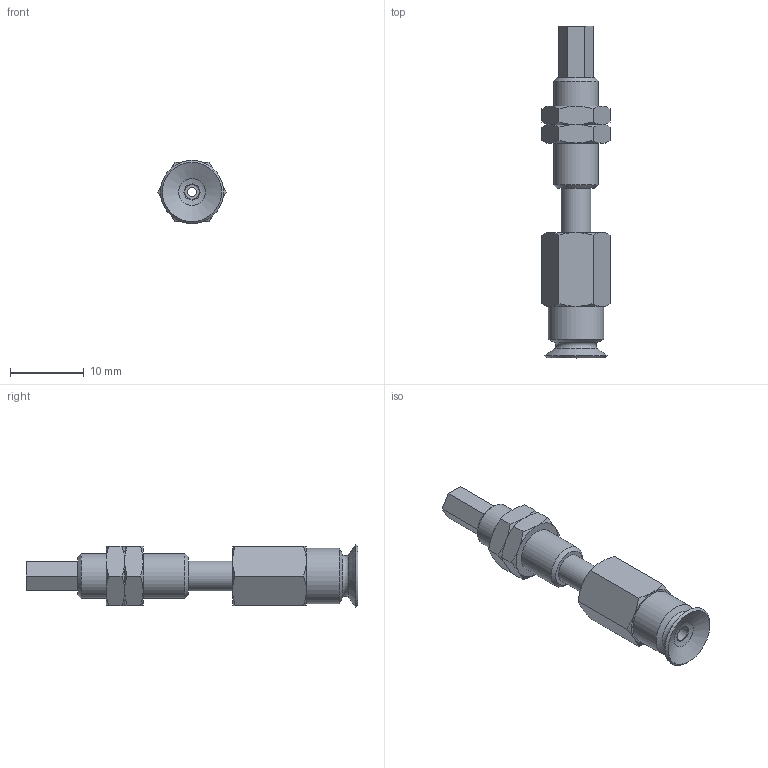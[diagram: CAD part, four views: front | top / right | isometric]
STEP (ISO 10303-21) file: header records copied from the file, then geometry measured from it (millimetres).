
FILE_DESCRIPTION(('STEP AP203'),'1');
FILE_NAME('.stp','2025-08-27T05:42:36',(' '),(' '),'Spatial InterOp 3D',' ',' ');
FILE_SCHEMA(('CONFIG_CONTROL_DESIGN'));
Length unit declared in the file: millimetre
Products named in the file (6): BNABPFTS-8A-6-※; ADAPTER; NAPCTS-7-6-MBODY; Nut-8A-6-s; NAPFTS-8A-6-FBODY; BPFG-8A-※
Assembly tree (6 placements, depth 2):
  BNABPFTS-8A-6-※
    ADAPTER
    NAPCTS-7-6-MBODY
    Nut-8A-6-s  x2
    NAPFTS-8A-6-FBODY
    BPFG-8A-※
Bounding box: 9.24 x 45 x 8.6 mm (x, y, z)
Volume: 1502.3 mm3; surface area: 2227 mm2
Topology: 6 solids, 6 shells, 117 faces, 245 edges, 144 vertices
Faces by surface type: cone 48, plane 46, cylinder 14, torus 8, bspline 1
Full cylindrical faces by diameter (mm): 1.2 x2, 2 x1, 2.459 x1, 4 x4, 5.188 x2, 6 x3, 7.5 x1
Entity records: 2761 total; most frequent: CARTESIAN_POINT 660, DIRECTION 382, ORIENTED_EDGE 316, AXIS2_PLACEMENT_3D 173, EDGE_CURVE 158, EDGE_LOOP 139, FACE_OUTER_BOUND 116, VERTEX_POINT 109
